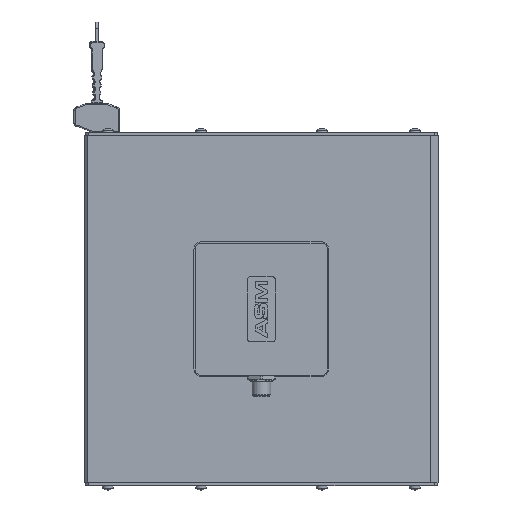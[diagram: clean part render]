
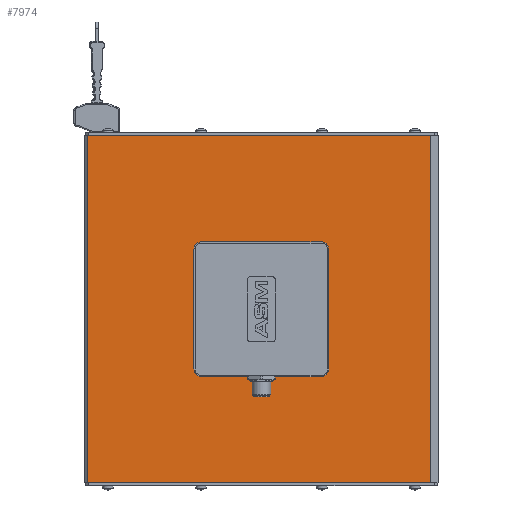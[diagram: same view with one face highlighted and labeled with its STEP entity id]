
A CAD part, left-side view. The second image highlights one B-rep face of the part: STEP entity #7974.
In plain terms, the highlighted planar face has unit normal (-1, 0, 0).
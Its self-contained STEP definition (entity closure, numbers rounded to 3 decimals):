
#402=CARTESIAN_POINT('',(-22.0,70.5,150.5));
#403=VERTEX_POINT('',#402);
#410=CARTESIAN_POINT('',(-22.0,75.5,155.5));
#411=VERTEX_POINT('',#410);
#412=CARTESIAN_POINT('',(-22.0,75.5,150.5));
#413=DIRECTION('',(1.0,0.0,0.0));
#414=DIRECTION('',(0.0,-1.0,0.0));
#415=AXIS2_PLACEMENT_3D('',#412,#413,#414);
#416=CIRCLE('',#415,5.);
#417=EDGE_CURVE('',#411,#403,#416,.T.);
#434=CARTESIAN_POINT('',(-22.0,70.5,73.5));
#435=VERTEX_POINT('',#434);
#442=CARTESIAN_POINT('',(-22.0,70.5,150.5));
#443=DIRECTION('',(0.0,0.0,-1.0));
#444=VECTOR('',#443,77.);
#445=LINE('',#442,#444);
#446=EDGE_CURVE('',#403,#435,#445,.T.);
#458=CARTESIAN_POINT('',(-22.0,75.5,68.5));
#459=VERTEX_POINT('',#458);
#466=CARTESIAN_POINT('',(-22.0,75.5,73.5));
#467=DIRECTION('',(1.0,0.0,0.0));
#468=DIRECTION('',(0.0,0.0,-1.0));
#469=AXIS2_PLACEMENT_3D('',#466,#467,#468);
#470=CIRCLE('',#469,5.);
#471=EDGE_CURVE('',#435,#459,#470,.T.);
#483=CARTESIAN_POINT('',(-22.0,152.5,68.5));
#484=VERTEX_POINT('',#483);
#491=CARTESIAN_POINT('',(-22.0,75.5,68.5));
#492=DIRECTION('',(0.0,1.0,0.0));
#493=VECTOR('',#492,77.);
#494=LINE('',#491,#493);
#495=EDGE_CURVE('',#459,#484,#494,.T.);
#7481=CARTESIAN_POINT('',(-22.0,5.0,224.));
#7482=VERTEX_POINT('',#7481);
#7489=CARTESIAN_POINT('',(-22.0,5.0,0.0));
#7490=VERTEX_POINT('',#7489);
#7491=CARTESIAN_POINT('',(-22.0,5.0,0.0));
#7492=DIRECTION('',(0.0,0.0,1.0));
#7493=VECTOR('',#7492,224.);
#7494=LINE('',#7491,#7493);
#7495=EDGE_CURVE('',#7490,#7482,#7494,.T.);
#7822=CARTESIAN_POINT('',(-22.0,226.0,0.0));
#7823=VERTEX_POINT('',#7822);
#7838=CARTESIAN_POINT('',(-22.0,5.0,0.0));
#7839=DIRECTION('',(0.0,1.0,0.0));
#7840=VECTOR('',#7839,221.0);
#7841=LINE('',#7838,#7840);
#7842=EDGE_CURVE('',#7490,#7823,#7841,.T.);
#7913=CARTESIAN_POINT('',(-22.0,5.0,0.0));
#7914=DIRECTION('',(-1.0,0.0,0.0));
#7915=DIRECTION('',(0.0,0.0,1.0));
#7916=AXIS2_PLACEMENT_3D('',#7913,#7914,#7915);
#7917=PLANE('',#7916);
#7918=CARTESIAN_POINT('',(-22.0,226.0,224.));
#7919=VERTEX_POINT('',#7918);
#7920=CARTESIAN_POINT('',(-22.0,226.0,0.0));
#7921=DIRECTION('',(0.0,0.0,1.0));
#7922=VECTOR('',#7921,224.);
#7923=LINE('',#7920,#7922);
#7924=EDGE_CURVE('',#7823,#7919,#7923,.T.);
#7925=ORIENTED_EDGE('',*,*,#7924,.F.);
#7926=ORIENTED_EDGE('',*,*,#7842,.F.);
#7927=ORIENTED_EDGE('',*,*,#7495,.T.);
#7928=CARTESIAN_POINT('',(-22.0,5.0,224.));
#7929=DIRECTION('',(0.0,1.0,0.0));
#7930=VECTOR('',#7929,221.0);
#7931=LINE('',#7928,#7930);
#7932=EDGE_CURVE('',#7482,#7919,#7931,.T.);
#7933=ORIENTED_EDGE('',*,*,#7932,.T.);
#7934=EDGE_LOOP('',(#7925,#7926,#7927,#7933));
#7935=FACE_OUTER_BOUND('',#7934,.T.);
#7936=ORIENTED_EDGE('',*,*,#495,.T.);
#7937=CARTESIAN_POINT('',(-22.0,157.5,73.5));
#7938=VERTEX_POINT('',#7937);
#7939=CARTESIAN_POINT('',(-22.0,152.5,73.5));
#7940=DIRECTION('',(1.0,0.0,0.0));
#7941=DIRECTION('',(0.0,1.0,0.0));
#7942=AXIS2_PLACEMENT_3D('',#7939,#7940,#7941);
#7943=CIRCLE('',#7942,5.0);
#7944=EDGE_CURVE('',#484,#7938,#7943,.T.);
#7945=ORIENTED_EDGE('',*,*,#7944,.T.);
#7946=CARTESIAN_POINT('',(-22.0,157.5,150.5));
#7947=VERTEX_POINT('',#7946);
#7948=CARTESIAN_POINT('',(-22.0,157.5,73.5));
#7949=DIRECTION('',(0.0,0.0,1.0));
#7950=VECTOR('',#7949,77.0);
#7951=LINE('',#7948,#7950);
#7952=EDGE_CURVE('',#7938,#7947,#7951,.T.);
#7953=ORIENTED_EDGE('',*,*,#7952,.T.);
#7954=CARTESIAN_POINT('',(-22.0,152.5,155.5));
#7955=VERTEX_POINT('',#7954);
#7956=CARTESIAN_POINT('',(-22.0,152.5,150.5));
#7957=DIRECTION('',(1.0,0.0,0.0));
#7958=DIRECTION('',(0.0,0.0,1.0));
#7959=AXIS2_PLACEMENT_3D('',#7956,#7957,#7958);
#7960=CIRCLE('',#7959,5.);
#7961=EDGE_CURVE('',#7947,#7955,#7960,.T.);
#7962=ORIENTED_EDGE('',*,*,#7961,.T.);
#7963=CARTESIAN_POINT('',(-22.0,152.5,155.5));
#7964=DIRECTION('',(0.0,-1.0,0.0));
#7965=VECTOR('',#7964,77.);
#7966=LINE('',#7963,#7965);
#7967=EDGE_CURVE('',#7955,#411,#7966,.T.);
#7968=ORIENTED_EDGE('',*,*,#7967,.T.);
#7969=ORIENTED_EDGE('',*,*,#417,.T.);
#7970=ORIENTED_EDGE('',*,*,#446,.T.);
#7971=ORIENTED_EDGE('',*,*,#471,.T.);
#7972=EDGE_LOOP('',(#7936,#7945,#7953,#7962,#7968,#7969,#7970,#7971));
#7973=FACE_BOUND('',#7972,.T.);
#7974=ADVANCED_FACE('',(#7935,#7973),#7917,.T.);
